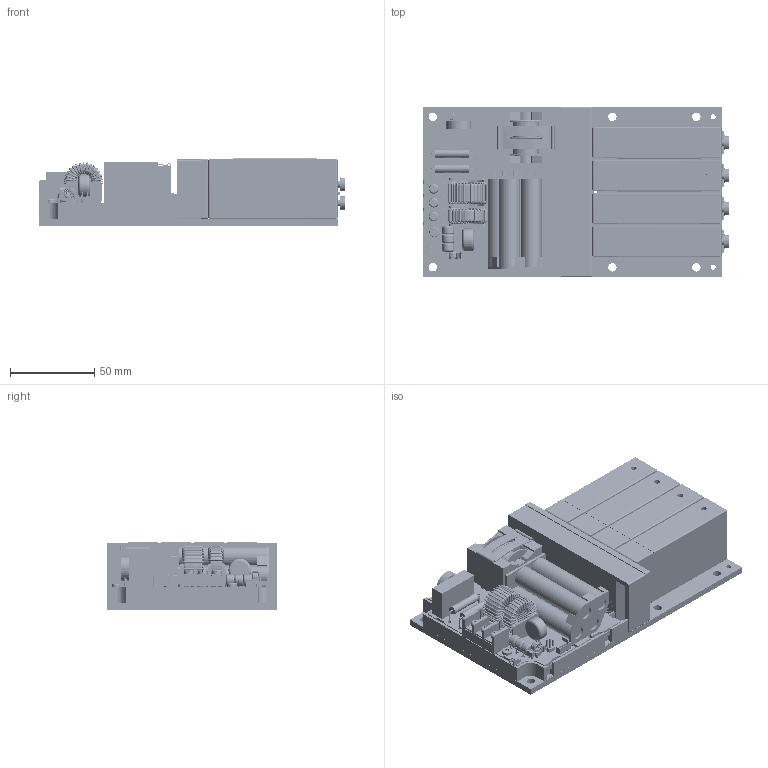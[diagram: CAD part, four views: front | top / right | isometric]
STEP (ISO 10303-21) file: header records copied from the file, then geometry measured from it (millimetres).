
FILE_DESCRIPTION((''),'2;1');
FILE_NAME('VCCM_3D.stp','2018-08-13T11:07:18',(''),(''),'Mechanical Desktop 2011','Mechanical Desktop 2011',', , ');
FILE_SCHEMA(('CONFIG_CONTROL_DESIGN'));
Length unit declared in the file: millimetre
Products named in the file (1): Product
Bounding box: 182.35 x 101.6 x 40.2 mm (x, y, z)
Volume: 287962.8 mm3; surface area: 215252.8 mm2
Topology: 67 solids, 74 shells, 9575 faces, 25838 edges, 16346 vertices
Faces by surface type: plane 4110, bspline 2907, cylinder 1776, torus 667, cone 108, sphere 7
Entity records: 328890 total; most frequent: CARTESIAN_POINT 91266, ORIENTED_EDGE 51756, DIRECTION 45382, EDGE_CURVE 25878, VECTOR 18936, LINE 18936, VERTEX_POINT 16346, AXIS2_PLACEMENT_3D 13223
